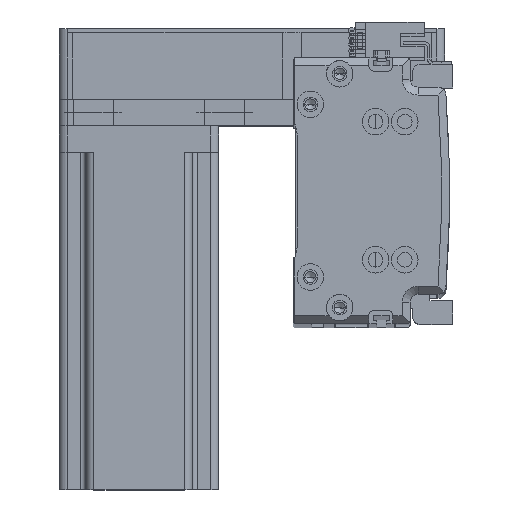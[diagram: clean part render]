
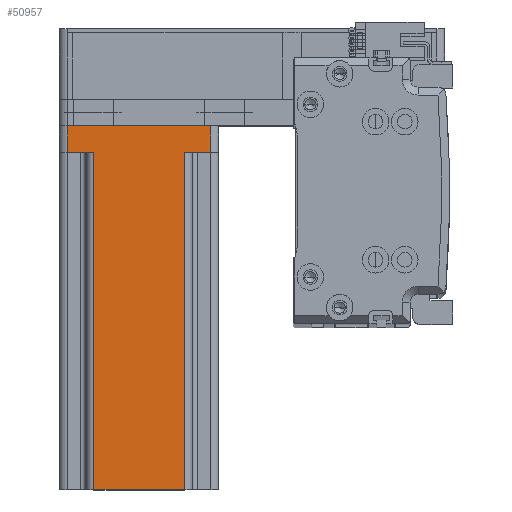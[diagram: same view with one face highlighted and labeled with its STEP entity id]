
A CAD part, top view. The second image highlights one B-rep face of the part: STEP entity #50957.
In plain terms, the highlighted planar face has unit normal (0, 0, 1) as drawn and (0, -1, 0) by its records, which use the part's own axes.
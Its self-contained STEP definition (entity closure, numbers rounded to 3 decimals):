
#243 = DIRECTION ( 'NONE',  ( 0., 0., -1. ) ) ;
#1639 = EDGE_CURVE ( 'NONE', #23509, #43000, #42777, .T. ) ;
#2588 = FACE_OUTER_BOUND ( 'NONE', #19736, .T. ) ;
#3587 = ORIENTED_EDGE ( 'NONE', *, *, #37903, .F. ) ;
#3683 = VECTOR ( 'NONE', #9501, 1000. ) ;
#5261 = EDGE_CURVE ( 'NONE', #31982, #23509, #36374, .T. ) ;
#6093 = DIRECTION ( 'NONE',  ( 0., 0., 1. ) ) ;
#8327 = CARTESIAN_POINT ( 'NONE',  ( -27., -30., 10. ) ) ;
#9501 = DIRECTION ( 'NONE',  ( 1., 0., 0. ) ) ;
#10518 = LINE ( 'NONE', #26132, #31785 ) ;
#10709 = LINE ( 'NONE', #17259, #30707 ) ;
#11168 = VECTOR ( 'NONE', #28907, 1000. ) ;
#12197 = VECTOR ( 'NONE', #20779, 1000. ) ;
#12906 = CARTESIAN_POINT ( 'NONE',  ( 20., -30., 10. ) ) ;
#14730 = DIRECTION ( 'NONE',  ( 1., 0., 0. ) ) ;
#17259 = CARTESIAN_POINT ( 'NONE',  ( -20., -30., 10. ) ) ;
#19493 = EDGE_CURVE ( 'NONE', #32894, #46937, #20212, .T. ) ;
#19736 = EDGE_LOOP ( 'NONE', ( #3587, #43915, #35328, #21343, #33522, #30799, #49266, #25086 ) ) ;
#20212 = LINE ( 'NONE', #27911, #50826 ) ;
#20285 = EDGE_CURVE ( 'NONE', #32894, #36698, #10709, .T. ) ;
#20779 = DIRECTION ( 'NONE',  ( -1., 0., 0. ) ) ;
#20848 = CARTESIAN_POINT ( 'NONE',  ( -17., -30., 137. ) ) ;
#21144 = DIRECTION ( 'NONE',  ( 1., 0., 0. ) ) ;
#21343 = ORIENTED_EDGE ( 'NONE', *, *, #19493, .T. ) ;
#22746 = CARTESIAN_POINT ( 'NONE',  ( 30., -30., 137. ) ) ;
#23509 = VERTEX_POINT ( 'NONE', #44317 ) ;
#23564 = DIRECTION ( 'NONE',  ( 0., 1., 0. ) ) ;
#24845 = VERTEX_POINT ( 'NONE', #42085 ) ;
#25086 = ORIENTED_EDGE ( 'NONE', *, *, #33764, .T. ) ;
#25780 = EDGE_CURVE ( 'NONE', #46937, #31982, #34218, .T. ) ;
#26132 = CARTESIAN_POINT ( 'NONE',  ( 17., -30., 137. ) ) ;
#27429 = PLANE ( 'NONE',  #51700 ) ;
#27911 = CARTESIAN_POINT ( 'NONE',  ( -27., -30., 137. ) ) ;
#28904 = CARTESIAN_POINT ( 'NONE',  ( -17., -30., 10. ) ) ;
#28907 = DIRECTION ( 'NONE',  ( 0., 0., -1. ) ) ;
#30707 = VECTOR ( 'NONE', #21144, 1000. ) ;
#30799 = ORIENTED_EDGE ( 'NONE', *, *, #5261, .T. ) ;
#31785 = VECTOR ( 'NONE', #6093, 1000. ) ;
#31876 = VERTEX_POINT ( 'NONE', #47848 ) ;
#31982 = VERTEX_POINT ( 'NONE', #33226 ) ;
#32442 = LINE ( 'NONE', #20848, #11168 ) ;
#32894 = VERTEX_POINT ( 'NONE', #8327 ) ;
#33226 = CARTESIAN_POINT ( 'NONE',  ( 27., -30., 0. ) ) ;
#33395 = CARTESIAN_POINT ( 'NONE',  ( 30., -30., 0. ) ) ;
#33522 = ORIENTED_EDGE ( 'NONE', *, *, #25780, .T. ) ;
#33764 = EDGE_CURVE ( 'NONE', #43000, #24845, #10518, .T. ) ;
#34218 = LINE ( 'NONE', #33395, #3683 ) ;
#34763 = CARTESIAN_POINT ( 'NONE',  ( 27., -30., 137. ) ) ;
#35328 = ORIENTED_EDGE ( 'NONE', *, *, #20285, .F. ) ;
#36374 = LINE ( 'NONE', #34763, #45688 ) ;
#36698 = VERTEX_POINT ( 'NONE', #28904 ) ;
#37903 = EDGE_CURVE ( 'NONE', #31876, #24845, #43685, .T. ) ;
#38737 = DIRECTION ( 'NONE',  ( 0., 0., 1. ) ) ;
#39925 = EDGE_CURVE ( 'NONE', #31876, #36698, #32442, .T. ) ;
#42085 = CARTESIAN_POINT ( 'NONE',  ( 17., -30., 137. ) ) ;
#42441 = VECTOR ( 'NONE', #14730, 1000. ) ;
#42777 = LINE ( 'NONE', #12906, #12197 ) ;
#43000 = VERTEX_POINT ( 'NONE', #45432 ) ;
#43685 = LINE ( 'NONE', #22746, #42441 ) ;
#43915 = ORIENTED_EDGE ( 'NONE', *, *, #39925, .T. ) ;
#44317 = CARTESIAN_POINT ( 'NONE',  ( 27., -30., 10. ) ) ;
#45432 = CARTESIAN_POINT ( 'NONE',  ( 17., -30., 10. ) ) ;
#45688 = VECTOR ( 'NONE', #38737, 1000. ) ;
#46937 = VERTEX_POINT ( 'NONE', #49005 ) ;
#47489 = CARTESIAN_POINT ( 'NONE',  ( 30., -30., 137. ) ) ;
#47848 = CARTESIAN_POINT ( 'NONE',  ( -17., -30., 137. ) ) ;
#49005 = CARTESIAN_POINT ( 'NONE',  ( -27., -30., 0. ) ) ;
#49266 = ORIENTED_EDGE ( 'NONE', *, *, #1639, .T. ) ;
#50826 = VECTOR ( 'NONE', #243, 1000. ) ;
#50957 = ADVANCED_FACE ( 'NONE', ( #2588 ), #27429, .F. ) ;
#51599 = DIRECTION ( 'NONE',  ( -1., 0., 0. ) ) ;
#51700 = AXIS2_PLACEMENT_3D ( 'NONE', #47489, #23564, #51599 ) ;
